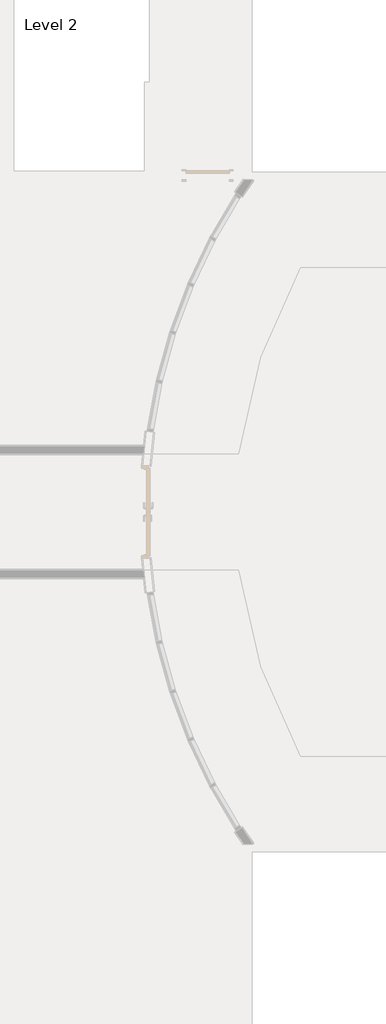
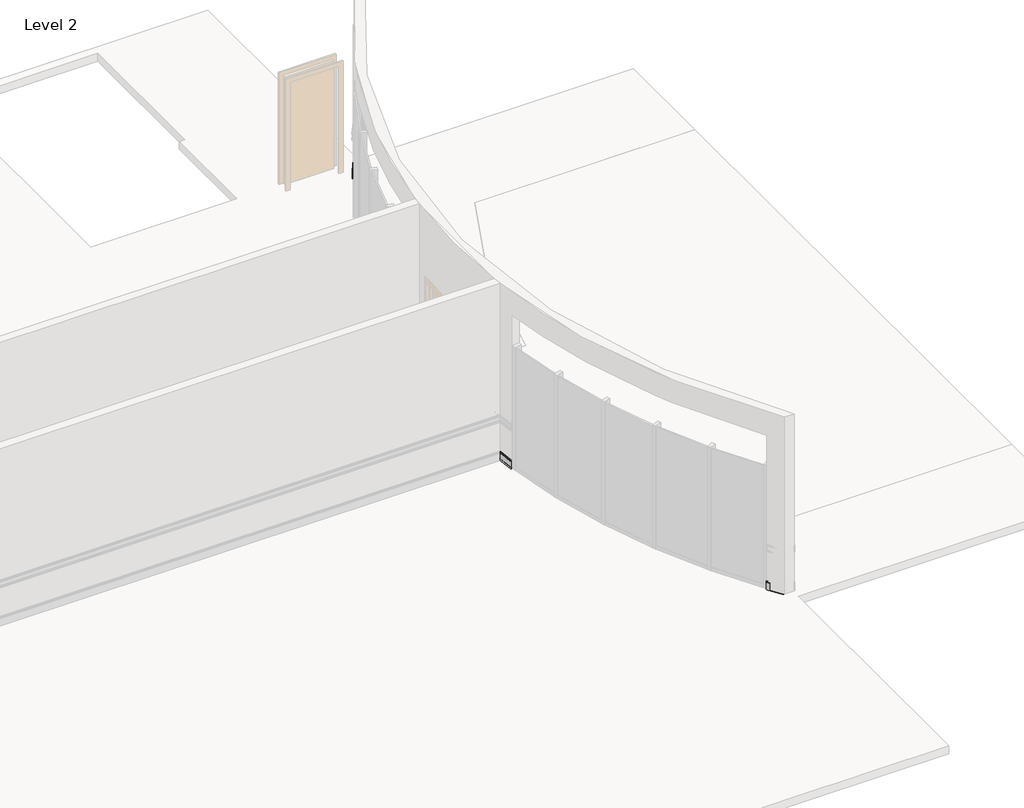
# One storey, part 9 of 14: 1 proxy.
"""IFC4 building model written with IfcOpenShell, lengths in millimetres."""

from ifc_helpers import new_model, si_unit, point, frame, origin, place, context, project, spatial, polyline, circle_curve, ellipse_curve, trimmed, element, save
from ifc_brep_helpers import plane_surface, cylinder_surface, revolved_surface, advanced_brep

model = new_model("IFC4")

# Units and contexts
model_context = context("Model", 3, world=origin())
ifc_project = project(units=[si_unit("LENGTHUNIT", "METRE", prefix="MILLI")], contexts=[model_context])

# Site, building, storey
site = spatial("IfcSite", under=ifc_project)
building = spatial("IfcBuilding", under=site)
storey = spatial("IfcBuildingStorey", under=building, Name="Level 2", Elevation=3657.6)

# Proxy
placement = place(None, origin())
element("IfcBuildingElementProxy", 1, Name="Wall Sweeps", at=placement, inside=storey, context=model_context, shape_type="AdvancedBrep", body=[
    advanced_brep(
    [(12519.4793918, -9214.933674, 3803.65), (12521.317589, -9213.735394, 3804.1164076), (12521.6623588, -9213.5106462, 3805.438329), (12520.8283152, -9214.0543408, 3817.4244174), (12526.5594309, -9210.3183535, 3827.5015472), (12525.4095949, -9211.0679061, 3836.0425393), (12527.4587137, -9209.732131, 3841.75), (12532.7782615, -9206.2644357, 3841.75), (12532.7782615, -9206.2644357, 3797.3), (12531.4483746, -9207.1313595, 3795.7125), (12531.4483746, -9207.1313595, 3684.5875), (12532.7782615, -9206.2644357, 3683.0), (12532.7782615, -9206.2644357, 3657.6), (12519.4793918, -9214.933674, 3657.6), (12695.6377266, -9477.7071785, 3803.65), (12695.6377266, -9477.7071785, 3657.6), (12708.7089721, -9468.6983956, 3657.6), (12708.7089721, -9468.6983956, 3683.0), (12707.4018476, -9469.5992739, 3684.5875), (12707.4018476, -9469.5992739, 3795.7125), (12708.7089721, -9468.6983956, 3797.3), (12708.7089721, -9468.6983956, 3841.75), (12703.4804739, -9472.3019087, 3841.75), (12701.466428, -9473.6900016, 3836.0425393), (12702.5965832, -9472.9110916, 3827.5015472), (12696.9635617, -9476.7934048, 3817.4244174), (12697.7833297, -9476.2284156, 3805.438329), (12697.444461, -9476.461966, 3804.1164076)],
    [
        (0, 1),
        (1, 2, circle_curve(frame((12521.1793394, -9213.8255158, 3804.8928122), z_axis=(0.5460937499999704, -0.8377240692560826, 0.0), x_axis=(-0.8377240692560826, -0.5460937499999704, 0.0)), 0.79375)),
        (2, 3, circle_curve(frame((12527.4587137, -9209.732131, 3812.047453), z_axis=(-0.5460937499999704, 0.8377240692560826, 0.0), x_axis=(-0.8377240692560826, -0.5460937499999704, 0.0)), 9.5684601)),
        (3, 4),
        (4, 5, circle_curve(frame((12522.1391659, -9213.1998263, 3831.034375), z_axis=(0.5460937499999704, -0.8377240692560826, 0.0), x_axis=(-0.8377240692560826, -0.5460937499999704, 0.0)), 6.35)),
        (5, 6),
        (6, 7),
        (7, 8),
        (8, 9),
        (9, 10),
        (10, 11),
        (11, 12),
        (12, 13),
        (13, 0),
        (14, 15),
        (15, 16),
        (16, 17),
        (17, 18),
        (18, 19),
        (19, 20),
        (20, 21),
        (21, 22),
        (22, 23),
        (23, 24, circle_curve(frame((12698.2519757, -9475.9054218, 3831.034375), z_axis=(-0.5674823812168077, 0.8233855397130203, 0.0), x_axis=(-0.8233855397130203, -0.5674823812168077, 0.0)), 6.35)),
        (24, 25),
        (25, 26, circle_curve(frame((12703.4804739, -9472.3019087, 3812.047453), z_axis=(0.5674823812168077, -0.8233855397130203, 0.0), x_axis=(-0.8233855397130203, -0.5674823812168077, 0.0)), 9.5684601)),
        (26, 27, circle_curve(frame((12697.3085778, -9476.5556175, 3804.8928122), z_axis=(-0.5674823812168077, 0.8233855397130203, 0.0), x_axis=(-0.8233855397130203, -0.5674823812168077, 0.0)), 0.79375)),
        (27, 14),
        (27, 1, circle_curve(frame((22811.474575, -2505.8101681, 3804.1164076), z_axis=(0.0, 0.0, -1.0), x_axis=(-0.837724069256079, -0.5460937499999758, 0.0)), 12283.468225)),
        (0, 14, circle_curve(frame((22811.474575, -2505.8101681, 3803.65), z_axis=(0.0, 0.0, 1.0), x_axis=(-0.837724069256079, -0.5460937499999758, 0.0)), 12285.6625001)),
        (26, 2, circle_curve(frame((22811.474575, -2505.8101681, 3805.438329), z_axis=(0.0, 0.0, -1.0), x_axis=(-0.837724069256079, -0.5460937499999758, 0.0)), 12283.0566696)),
        (25, 3, circle_curve(frame((22811.474575, -2505.8101681, 3817.4244174), z_axis=(0.0, 0.0, -1.0), x_axis=(-0.837724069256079, -0.5460937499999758, 0.0)), 12284.0522762)),
        (24, 4, circle_curve(frame((22811.474575, -2505.8101681, 3827.5015472), z_axis=(0.0, 0.0, -1.0), x_axis=(-0.837724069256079, -0.5460937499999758, 0.0)), 12277.2109834)),
        (23, 5, circle_curve(frame((22811.474575, -2505.8101681, 3836.0425393), z_axis=(0.0, 0.0, -1.0), x_axis=(-0.837724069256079, -0.5460937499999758, 0.0)), 12278.5835546)),
        (22, 6, circle_curve(frame((22811.474575, -2505.8101681, 3841.75), z_axis=(0.0, 0.0, -1.0), x_axis=(-0.837724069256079, -0.5460937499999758, 0.0)), 12276.1375)),
        (21, 7, circle_curve(frame((22811.474575, -2505.8101681, 3841.75), z_axis=(0.0, 0.0, -1.0), x_axis=(-0.837724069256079, -0.5460937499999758, 0.0)), 12269.7875)),
        (20, 8, circle_curve(frame((22811.474575, -2505.8101681, 3797.3), z_axis=(0.0, 0.0, -1.0), x_axis=(-0.837724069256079, -0.5460937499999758, 0.0)), 12269.7875)),
        (19, 9, circle_curve(frame((22811.474575, -2505.8101681, 3795.7125), z_axis=(0.0, 0.0, -1.0), x_axis=(-0.837724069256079, -0.5460937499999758, 0.0)), 12271.375)),
        (18, 10, circle_curve(frame((22811.474575, -2505.8101681, 3684.5875), z_axis=(0.0, 0.0, -1.0), x_axis=(-0.837724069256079, -0.5460937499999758, 0.0)), 12271.375)),
        (17, 11, circle_curve(frame((22811.474575, -2505.8101681, 3683.0), z_axis=(0.0, 0.0, -1.0), x_axis=(-0.837724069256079, -0.5460937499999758, 0.0)), 12269.7875)),
        (16, 12, circle_curve(frame((22811.474575, -2505.8101681, 3657.6), z_axis=(0.0, 0.0, -1.0), x_axis=(-0.837724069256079, -0.5460937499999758, 0.0)), 12269.7875)),
        (15, 13, circle_curve(frame((22811.474575, -2505.8101681, 3657.6), z_axis=(0.0, 0.0, -1.0), x_axis=(-0.837724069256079, -0.5460937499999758, 0.0)), 12285.6625001)),
    ],
    [
        plane_surface(frame((22811.474575, -2505.8101681, 3657.6), z_axis=(-0.5460937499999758, 0.837724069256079, 0.0), x_axis=(-0.837724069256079, -0.5460937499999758, 0.0))),
        plane_surface(frame((22811.474575, -2505.8101681, 3657.6), z_axis=(0.5674823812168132, -0.8233855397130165, 0.0), x_axis=(-0.8233855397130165, -0.5674823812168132, 0.0))),
        revolved_surface(polyline([(12519.4793918, -9214.933674, 3803.65), (12521.317589, -9213.735394, 3804.1164076)]), (22811.474575, -2505.8101681, 3657.6), (0.0, 0.0, 1.0)),
        revolved_surface(trimmed(ellipse_curve(frame((12521.1793394, -9213.8255158, 3804.8928122), z_axis=(0.5460937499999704, -0.8377240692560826, 0.0), x_axis=(-0.8377240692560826, -0.5460937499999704, 0.0)), 0.79375, 0.79375), [point((12521.317589, -9213.735394, 3804.1164076))], [point((12521.6623588, -9213.5106462, 3805.438329))], True, "CARTESIAN"), (22811.474575, -2505.8101681, 3657.6), (0.0, 0.0, 1.0)),
        revolved_surface(trimmed(ellipse_curve(frame((12527.4587137, -9209.732131, 3812.047453), z_axis=(-0.5460937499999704, 0.8377240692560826, 0.0), x_axis=(-0.8377240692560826, -0.5460937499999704, 0.0)), 9.5684601, 9.5684601), [point((12521.6623588, -9213.5106462, 3805.438329))], [point((12520.8283152, -9214.0543408, 3817.4244174))], True, "CARTESIAN"), (22811.474575, -2505.8101681, 3657.6), (0.0, 0.0, 1.0)),
        revolved_surface(polyline([(12520.8283152, -9214.0543408, 3817.4244174), (12526.5594309, -9210.3183535, 3827.5015472)]), (22811.474575, -2505.8101681, 3657.6), (0.0, 0.0, 1.0)),
        revolved_surface(trimmed(ellipse_curve(frame((12522.1391659, -9213.1998263, 3831.034375), z_axis=(0.5460937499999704, -0.8377240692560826, 0.0), x_axis=(-0.8377240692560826, -0.5460937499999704, 0.0)), 6.35, 6.35), [point((12526.5594309, -9210.3183535, 3827.5015472))], [point((12525.4095949, -9211.0679061, 3836.0425393))], True, "CARTESIAN"), (22811.474575, -2505.8101681, 3657.6), (0.0, 0.0, 1.0)),
        revolved_surface(polyline([(12525.4095949, -9211.0679061, 3836.0425393), (12527.4587137, -9209.732131, 3841.75)]), (22811.474575, -2505.8101681, 3657.6), (0.0, 0.0, 1.0)),
        plane_surface(frame((22811.474575, -2505.8101681, 3841.75), z_axis=(0.0, 0.0, 1.0), x_axis=(-0.837724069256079, -0.5460937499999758, 0.0))),
        revolved_surface(polyline([(12532.778261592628, -9206.26443567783, 3841.75), (12532.778261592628, -9206.26443567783, 3797.3)]), (22811.474575, -2505.8101681, 3657.6), (0.0, 0.0, 1.0)),
        revolved_surface(polyline([(12532.7782615, -9206.2644357, 3797.3), (12531.4483746, -9207.1313595, 3795.7125)]), (22811.474575, -2505.8101681, 3657.6), (0.0, 0.0, 1.0)),
        revolved_surface(polyline([(12531.448374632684, -9207.131359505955, 3795.7125), (12531.448374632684, -9207.131359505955, 3684.5875)]), (22811.474575, -2505.8101681, 3657.6), (0.0, 0.0, 1.0)),
        revolved_surface(polyline([(12531.4483746, -9207.1313595, 3684.5875), (12532.7782615, -9206.2644357, 3683.0)]), (22811.474575, -2505.8101681, 3657.6), (0.0, 0.0, 1.0)),
        revolved_surface(polyline([(12532.778261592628, -9206.26443567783, 3683.0), (12532.778261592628, -9206.26443567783, 3657.6)]), (22811.474575, -2505.8101681, 3657.6), (0.0, 0.0, 1.0)),
        plane_surface(frame((22811.474575, -2505.8101681, 3657.6), z_axis=(0.0, 0.0, -1.0), x_axis=(-0.837724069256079, -0.5460937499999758, 0.0))),
        cylinder_surface(frame((22811.474575, -2505.8101681, 3657.6), z_axis=(0.0, 0.0, 1.0), x_axis=(-0.837724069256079, -0.5460937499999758, 0.0)), 12285.6625001),
    ],
    [
        (0, [[1, 2, 3, 4, 5, 6, 7, 8, 9, 10, 11, 12, 13, 14]]),
        (1, [[15, 16, 17, 18, 19, 20, 21, 22, 23, 24, 25, 26, 27, 28]]),
        (2, [[29, -1, 30, -28]]),
        (3, [[31, -2, -29, -27]]),
        (4, [[32, -3, -31, -26]]),
        (5, [[33, -4, -32, -25]]),
        (6, [[34, -5, -33, -24]]),
        (7, [[35, -6, -34, -23]]),
        (8, [[36, -7, -35, -22]]),
        (9, [[37, -8, -36, -21]]),
        (10, [[38, -9, -37, -20]]),
        (11, [[39, -10, -38, -19]]),
        (12, [[40, -11, -39, -18]]),
        (13, [[41, -12, -40, -17]]),
        (14, [[42, -13, -41, -16]]),
        (15, [[-30, -14, -42, -15]]),
    ],
),
    advanced_brep(
    [(10563.8838005, -3472.2589713, 3803.65), (10566.0712759, -3472.0863591, 3804.1164076), (10566.4815559, -3472.0539842, 3805.438329), (10565.4890346, -3472.1323034, 3817.4244174), (10572.3091271, -3471.5941347, 3827.5015472), (10570.9408093, -3471.7021077, 3836.0425393), (10573.3792839, -3471.5096894, 3841.75), (10579.709606, -3471.0101681, 3841.75), (10579.709606, -3471.0101681, 3797.3), (10578.1270255, -3471.1350484, 3795.7125), (10578.1270255, -3471.1350484, 3684.5875), (10579.709606, -3471.0101681, 3683.0), (10579.709606, -3471.0101681, 3657.6), (10563.8838005, -3472.2589713, 3657.6), (10642.948726, -4198.2881531, 3803.65), (10642.948726, -4198.2881531, 3657.6), (10658.6723672, -4196.1012065, 3657.6), (10658.6723672, -4196.1012065, 3683.0), (10657.1000031, -4196.3199011, 3684.5875), (10657.1000031, -4196.3199011, 3795.7125), (10658.6723672, -4196.1012065, 3797.3), (10658.6723672, -4196.1012065, 3841.75), (10652.3829108, -4196.9759851, 3841.75), (10649.9601779, -4197.3129546, 3836.0425393), (10651.3196624, -4197.1238686, 3827.5015472), (10644.5435974, -4198.066328, 3817.4244174), (10645.5297114, -4197.9291728, 3805.438329), (10645.12208, -4197.9858689, 3804.1164076)],
    [
        (0, 1),
        (1, 2, circle_curve(frame((10565.9067574, -3472.0993412, 3804.8928122), z_axis=(0.0786647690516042, -0.9969011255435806, 0.0), x_axis=(-0.9969011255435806, -0.0786647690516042, 0.0)), 0.79375)),
        (2, 3, circle_curve(frame((10573.3792839, -3471.5096894, 3812.047453), z_axis=(-0.0786647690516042, 0.9969011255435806, 0.0), x_axis=(-0.9969011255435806, -0.0786647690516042, 0.0)), 9.5684601)),
        (3, 4),
        (4, 5, circle_curve(frame((10567.0489617, -3472.0092106, 3831.034375), z_axis=(0.0786647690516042, -0.9969011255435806, 0.0), x_axis=(-0.9969011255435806, -0.0786647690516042, 0.0)), 6.35)),
        (5, 6),
        (6, 7),
        (7, 8),
        (8, 9),
        (9, 10),
        (10, 11),
        (11, 12),
        (12, 13),
        (13, 0),
        (14, 15),
        (15, 16),
        (16, 17),
        (17, 18),
        (18, 19),
        (19, 20),
        (20, 21),
        (21, 22),
        (22, 23),
        (23, 24, circle_curve(frame((10646.0934543, -4197.8507638, 3831.034375), z_axis=(-0.13776041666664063, 0.990465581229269, 0.0), x_axis=(-0.990465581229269, -0.13776041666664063, 0.0)), 6.35)),
        (24, 25),
        (25, 26, circle_curve(frame((10652.3829108, -4196.9759851, 3812.047453), z_axis=(0.13776041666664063, -0.990465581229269, 0.0), x_axis=(-0.990465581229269, -0.13776041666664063, 0.0)), 9.5684601)),
        (26, 27, circle_curve(frame((10644.9586236, -4198.0086034, 3804.8928122), z_axis=(-0.13776041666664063, 0.990465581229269, 0.0), x_axis=(-0.990465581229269, -0.13776041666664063, 0.0)), 0.79375)),
        (27, 14),
        (27, 1, circle_curve(frame((22811.474575, -2505.8101681, 3804.1164076), z_axis=(0.0, 0.0, -1.0), x_axis=(-0.99690112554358, -0.07866476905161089, 0.0)), 12283.468225)),
        (0, 14, circle_curve(frame((22811.474575, -2505.8101681, 3803.65), z_axis=(0.0, 0.0, 1.0), x_axis=(-0.99690112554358, -0.07866476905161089, 0.0)), 12285.6625001)),
        (26, 2, circle_curve(frame((22811.474575, -2505.8101681, 3805.438329), z_axis=(0.0, 0.0, -1.0), x_axis=(-0.99690112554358, -0.07866476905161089, 0.0)), 12283.0566696)),
        (25, 3, circle_curve(frame((22811.474575, -2505.8101681, 3817.4244174), z_axis=(0.0, 0.0, -1.0), x_axis=(-0.99690112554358, -0.07866476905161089, 0.0)), 12284.0522762)),
        (24, 4, circle_curve(frame((22811.474575, -2505.8101681, 3827.5015472), z_axis=(0.0, 0.0, -1.0), x_axis=(-0.99690112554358, -0.07866476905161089, 0.0)), 12277.2109834)),
        (23, 5, circle_curve(frame((22811.474575, -2505.8101681, 3836.0425393), z_axis=(0.0, 0.0, -1.0), x_axis=(-0.99690112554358, -0.07866476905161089, 0.0)), 12278.5835546)),
        (22, 6, circle_curve(frame((22811.474575, -2505.8101681, 3841.75), z_axis=(0.0, 0.0, -1.0), x_axis=(-0.99690112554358, -0.07866476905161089, 0.0)), 12276.1375)),
        (21, 7, circle_curve(frame((22811.474575, -2505.8101681, 3841.75), z_axis=(0.0, 0.0, -1.0), x_axis=(-0.99690112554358, -0.07866476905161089, 0.0)), 12269.7875)),
        (20, 8, circle_curve(frame((22811.474575, -2505.8101681, 3797.3), z_axis=(0.0, 0.0, -1.0), x_axis=(-0.99690112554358, -0.07866476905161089, 0.0)), 12269.7875)),
        (19, 9, circle_curve(frame((22811.474575, -2505.8101681, 3795.7125), z_axis=(0.0, 0.0, -1.0), x_axis=(-0.99690112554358, -0.07866476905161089, 0.0)), 12271.375)),
        (18, 10, circle_curve(frame((22811.474575, -2505.8101681, 3684.5875), z_axis=(0.0, 0.0, -1.0), x_axis=(-0.99690112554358, -0.07866476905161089, 0.0)), 12271.375)),
        (17, 11, circle_curve(frame((22811.474575, -2505.8101681, 3683.0), z_axis=(0.0, 0.0, -1.0), x_axis=(-0.99690112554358, -0.07866476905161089, 0.0)), 12269.7875)),
        (16, 12, circle_curve(frame((22811.474575, -2505.8101681, 3657.6), z_axis=(0.0, 0.0, -1.0), x_axis=(-0.99690112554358, -0.07866476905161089, 0.0)), 12269.7875)),
        (15, 13, circle_curve(frame((22811.474575, -2505.8101681, 3657.6), z_axis=(0.0, 0.0, -1.0), x_axis=(-0.99690112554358, -0.07866476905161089, 0.0)), 12285.6625001)),
    ],
    [
        plane_surface(frame((22811.474575, -2505.8101681, 3657.6), z_axis=(-0.07866476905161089, 0.99690112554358, 0.0), x_axis=(-0.99690112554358, -0.07866476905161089, 0.0))),
        plane_surface(frame((22811.474575, -2505.8101681, 3657.6), z_axis=(0.13776041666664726, -0.9904655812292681, 0.0), x_axis=(-0.9904655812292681, -0.13776041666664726, 0.0))),
        revolved_surface(polyline([(10563.8838005, -3472.2589713, 3803.65), (10566.0712759, -3472.0863591, 3804.1164076)]), (22811.474575, -2505.8101681, 3657.6), (0.0, 0.0, 1.0)),
        revolved_surface(trimmed(ellipse_curve(frame((10565.9067574, -3472.0993412, 3804.8928122), z_axis=(0.0786647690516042, -0.9969011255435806, 0.0), x_axis=(-0.9969011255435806, -0.0786647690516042, 0.0)), 0.79375, 0.79375), [point((10566.0712759, -3472.0863591, 3804.1164076))], [point((10566.4815559, -3472.0539842, 3805.438329))], True, "CARTESIAN"), (22811.474575, -2505.8101681, 3657.6), (0.0, 0.0, 1.0)),
        revolved_surface(trimmed(ellipse_curve(frame((10573.3792839, -3471.5096894, 3812.047453), z_axis=(-0.0786647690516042, 0.9969011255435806, 0.0), x_axis=(-0.9969011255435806, -0.0786647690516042, 0.0)), 9.5684601, 9.5684601), [point((10566.4815559, -3472.0539842, 3805.438329))], [point((10565.4890346, -3472.1323034, 3817.4244174))], True, "CARTESIAN"), (22811.474575, -2505.8101681, 3657.6), (0.0, 0.0, 1.0)),
        revolved_surface(polyline([(10565.4890346, -3472.1323034, 3817.4244174), (10572.3091271, -3471.5941347, 3827.5015472)]), (22811.474575, -2505.8101681, 3657.6), (0.0, 0.0, 1.0)),
        revolved_surface(trimmed(ellipse_curve(frame((10567.0489617, -3472.0092106, 3831.034375), z_axis=(0.0786647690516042, -0.9969011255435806, 0.0), x_axis=(-0.9969011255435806, -0.0786647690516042, 0.0)), 6.35, 6.35), [point((10572.3091271, -3471.5941347, 3827.5015472))], [point((10570.9408093, -3471.7021077, 3836.0425393))], True, "CARTESIAN"), (22811.474575, -2505.8101681, 3657.6), (0.0, 0.0, 1.0)),
        revolved_surface(polyline([(10570.9408093, -3471.7021077, 3836.0425393), (10573.3792839, -3471.5096894, 3841.75)]), (22811.474575, -2505.8101681, 3657.6), (0.0, 0.0, 1.0)),
        plane_surface(frame((22811.474575, -2505.8101681, 3841.75), z_axis=(0.0, 0.0, 1.0), x_axis=(-0.99690112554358, -0.07866476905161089, 0.0))),
        revolved_surface(polyline([(10579.709606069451, -3471.0101680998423, 3841.75), (10579.709606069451, -3471.0101680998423, 3797.3)]), (22811.474575, -2505.8101681, 3657.6), (0.0, 0.0, 1.0)),
        revolved_surface(polyline([(10579.709606, -3471.0101681, 3797.3), (10578.1270255, -3471.1350484, 3795.7125)]), (22811.474575, -2505.8101681, 3657.6), (0.0, 0.0, 1.0)),
        revolved_surface(polyline([(10578.12702553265, -3471.1350484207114, 3795.7125), (10578.12702553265, -3471.1350484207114, 3684.5875)]), (22811.474575, -2505.8101681, 3657.6), (0.0, 0.0, 1.0)),
        revolved_surface(polyline([(10578.1270255, -3471.1350484, 3684.5875), (10579.709606, -3471.0101681, 3683.0)]), (22811.474575, -2505.8101681, 3657.6), (0.0, 0.0, 1.0)),
        revolved_surface(polyline([(10579.709606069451, -3471.0101680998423, 3683.0), (10579.709606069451, -3471.0101680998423, 3657.6)]), (22811.474575, -2505.8101681, 3657.6), (0.0, 0.0, 1.0)),
        plane_surface(frame((22811.474575, -2505.8101681, 3657.6), z_axis=(0.0, 0.0, -1.0), x_axis=(-0.99690112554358, -0.07866476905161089, 0.0))),
        cylinder_surface(frame((22811.474575, -2505.8101681, 3657.6), z_axis=(0.0, 0.0, 1.0), x_axis=(-0.99690112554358, -0.07866476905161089, 0.0)), 12285.6625001),
    ],
    [
        (0, [[1, 2, 3, 4, 5, 6, 7, 8, 9, 10, 11, 12, 13, 14]]),
        (1, [[15, 16, 17, 18, 19, 20, 21, 22, 23, 24, 25, 26, 27, 28]]),
        (2, [[29, -1, 30, -28]]),
        (3, [[31, -2, -29, -27]]),
        (4, [[32, -3, -31, -26]]),
        (5, [[33, -4, -32, -25]]),
        (6, [[34, -5, -33, -24]]),
        (7, [[35, -6, -34, -23]]),
        (8, [[36, -7, -35, -22]]),
        (9, [[37, -8, -36, -21]]),
        (10, [[38, -9, -37, -20]]),
        (11, [[39, -10, -38, -19]]),
        (12, [[40, -11, -39, -18]]),
        (13, [[41, -12, -40, -17]]),
        (14, [[42, -13, -41, -16]]),
        (15, [[-30, -14, -42, -15]]),
    ],
),
    advanced_brep(
    [(10642.948726, -813.332183, 3803.65), (10645.12208, -813.6344673, 3804.1164076), (10645.5297114, -813.6911633, 3805.438329), (10644.5435974, -813.5540082, 3817.4244174), (10651.3196624, -814.4964675, 3827.5015472), (10649.9601779, -814.3073815, 3836.0425393), (10652.3829108, -814.644351, 3841.75), (10658.6723672, -815.5191297, 3841.75), (10658.6723672, -815.5191297, 3797.3), (10657.1000031, -815.300435, 3795.7125), (10657.1000031, -815.300435, 3684.5875), (10658.6723672, -815.5191297, 3683.0), (10658.6723672, -815.5191297, 3657.6), (10642.948726, -813.332183, 3657.6), (10563.8838005, -1539.3613649, 3803.65), (10563.8838005, -1539.3613649, 3657.6), (10579.709606, -1540.6101681, 3657.6), (10579.709606, -1540.6101681, 3683.0), (10578.1270255, -1540.4852878, 3684.5875), (10578.1270255, -1540.4852878, 3795.7125), (10579.709606, -1540.6101681, 3797.3), (10579.709606, -1540.6101681, 3841.75), (10573.3792839, -1540.1106468, 3841.75), (10570.9408093, -1539.9182285, 3836.0425393), (10572.3091271, -1540.0262015, 3827.5015472), (10565.4890346, -1539.4880327, 3817.4244174), (10566.4815559, -1539.5663519, 3805.438329), (10566.0712759, -1539.533977, 3804.1164076)],
    [
        (0, 1),
        (1, 2, circle_curve(frame((10644.9586236, -813.6117327, 3804.8928122), z_axis=(-0.1377604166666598, -0.9904655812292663, 0.0), x_axis=(-0.9904655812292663, 0.1377604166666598, 0.0)), 0.79375)),
        (2, 3, circle_curve(frame((10652.3829108, -814.644351, 3812.047453), z_axis=(0.1377604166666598, 0.9904655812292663, 0.0), x_axis=(-0.9904655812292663, 0.1377604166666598, 0.0)), 9.5684601)),
        (3, 4),
        (4, 5, circle_curve(frame((10646.0934543, -813.7695724, 3831.034375), z_axis=(-0.1377604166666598, -0.9904655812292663, 0.0), x_axis=(-0.9904655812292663, 0.1377604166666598, 0.0)), 6.35)),
        (5, 6),
        (6, 7),
        (7, 8),
        (8, 9),
        (9, 10),
        (10, 11),
        (11, 12),
        (12, 13),
        (13, 0),
        (14, 15),
        (15, 16),
        (16, 17),
        (17, 18),
        (18, 19),
        (19, 20),
        (20, 21),
        (21, 22),
        (22, 23),
        (23, 24, circle_curve(frame((10567.0489617, -1539.6111255, 3831.034375), z_axis=(0.07866476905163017, 0.9969011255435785, 0.0), x_axis=(-0.9969011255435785, 0.07866476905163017, 0.0)), 6.35)),
        (24, 25),
        (25, 26, circle_curve(frame((10573.3792839, -1540.1106468, 3812.047453), z_axis=(-0.07866476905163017, -0.9969011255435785, 0.0), x_axis=(-0.9969011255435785, 0.07866476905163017, 0.0)), 9.5684601)),
        (26, 27, circle_curve(frame((10565.9067574, -1539.520995, 3804.8928122), z_axis=(0.07866476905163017, 0.9969011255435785, 0.0), x_axis=(-0.9969011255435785, 0.07866476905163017, 0.0)), 0.79375)),
        (27, 14),
        (27, 1, circle_curve(frame((22811.474575, -2505.8101681, 3804.1164076), z_axis=(0.0, 0.0, -1.0), x_axis=(-0.9904655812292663, 0.1377604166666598, 0.0)), 12283.468225)),
        (0, 14, circle_curve(frame((22811.474575, -2505.8101681, 3803.65), z_axis=(0.0, 0.0, 1.0), x_axis=(-0.9904655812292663, 0.1377604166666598, 0.0)), 12285.6625001)),
        (26, 2, circle_curve(frame((22811.474575, -2505.8101681, 3805.438329), z_axis=(0.0, 0.0, -1.0), x_axis=(-0.9904655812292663, 0.1377604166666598, 0.0)), 12283.0566696)),
        (25, 3, circle_curve(frame((22811.474575, -2505.8101681, 3817.4244174), z_axis=(0.0, 0.0, -1.0), x_axis=(-0.9904655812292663, 0.1377604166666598, 0.0)), 12284.0522762)),
        (24, 4, circle_curve(frame((22811.474575, -2505.8101681, 3827.5015472), z_axis=(0.0, 0.0, -1.0), x_axis=(-0.9904655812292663, 0.1377604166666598, 0.0)), 12277.2109834)),
        (23, 5, circle_curve(frame((22811.474575, -2505.8101681, 3836.0425393), z_axis=(0.0, 0.0, -1.0), x_axis=(-0.9904655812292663, 0.1377604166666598, 0.0)), 12278.5835546)),
        (22, 6, circle_curve(frame((22811.474575, -2505.8101681, 3841.75), z_axis=(0.0, 0.0, -1.0), x_axis=(-0.9904655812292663, 0.1377604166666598, 0.0)), 12276.1375)),
        (21, 7, circle_curve(frame((22811.474575, -2505.8101681, 3841.75), z_axis=(0.0, 0.0, -1.0), x_axis=(-0.9904655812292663, 0.1377604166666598, 0.0)), 12269.7875)),
        (20, 8, circle_curve(frame((22811.474575, -2505.8101681, 3797.3), z_axis=(0.0, 0.0, -1.0), x_axis=(-0.9904655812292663, 0.1377604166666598, 0.0)), 12269.7875)),
        (19, 9, circle_curve(frame((22811.474575, -2505.8101681, 3795.7125), z_axis=(0.0, 0.0, -1.0), x_axis=(-0.9904655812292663, 0.1377604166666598, 0.0)), 12271.375)),
        (18, 10, circle_curve(frame((22811.474575, -2505.8101681, 3684.5875), z_axis=(0.0, 0.0, -1.0), x_axis=(-0.9904655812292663, 0.1377604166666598, 0.0)), 12271.375)),
        (17, 11, circle_curve(frame((22811.474575, -2505.8101681, 3683.0), z_axis=(0.0, 0.0, -1.0), x_axis=(-0.9904655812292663, 0.1377604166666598, 0.0)), 12269.7875)),
        (16, 12, circle_curve(frame((22811.474575, -2505.8101681, 3657.6), z_axis=(0.0, 0.0, -1.0), x_axis=(-0.9904655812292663, 0.1377604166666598, 0.0)), 12269.7875)),
        (15, 13, circle_curve(frame((22811.474575, -2505.8101681, 3657.6), z_axis=(0.0, 0.0, -1.0), x_axis=(-0.9904655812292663, 0.1377604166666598, 0.0)), 12285.6625001)),
    ],
    [
        plane_surface(frame((22811.474575, -2505.8101681, 3657.6), z_axis=(0.1377604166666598, 0.9904655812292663, 0.0), x_axis=(-0.9904655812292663, 0.1377604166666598, 0.0))),
        plane_surface(frame((22811.474575, -2505.8101681, 3657.6), z_axis=(-0.07866476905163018, -0.9969011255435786, 0.0), x_axis=(-0.9969011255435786, 0.07866476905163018, 0.0))),
        revolved_surface(polyline([(10642.948726, -813.332183, 3803.65), (10645.12208, -813.6344673, 3804.1164076)]), (22811.474575, -2505.8101681, 3657.6), (0.0, 0.0, 1.0)),
        revolved_surface(trimmed(ellipse_curve(frame((10644.9586236, -813.6117327, 3804.8928122), z_axis=(-0.1377604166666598, -0.9904655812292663, 0.0), x_axis=(-0.9904655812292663, 0.1377604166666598, 0.0)), 0.79375, 0.79375), [point((10645.12208, -813.6344673, 3804.1164076))], [point((10645.5297114, -813.6911633, 3805.438329))], True, "CARTESIAN"), (22811.474575, -2505.8101681, 3657.6), (0.0, 0.0, 1.0)),
        revolved_surface(trimmed(ellipse_curve(frame((10652.3829108, -814.644351, 3812.047453), z_axis=(0.1377604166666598, 0.9904655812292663, 0.0), x_axis=(-0.9904655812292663, 0.1377604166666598, 0.0)), 9.5684601, 9.5684601), [point((10645.5297114, -813.6911633, 3805.438329))], [point((10644.5435974, -813.5540082, 3817.4244174))], True, "CARTESIAN"), (22811.474575, -2505.8101681, 3657.6), (0.0, 0.0, 1.0)),
        revolved_surface(polyline([(10644.5435974, -813.5540082, 3817.4244174), (10651.3196624, -814.4964675, 3827.5015472)]), (22811.474575, -2505.8101681, 3657.6), (0.0, 0.0, 1.0)),
        revolved_surface(trimmed(ellipse_curve(frame((10646.0934543, -813.7695724, 3831.034375), z_axis=(-0.1377604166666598, -0.9904655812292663, 0.0), x_axis=(-0.9904655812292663, 0.1377604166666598, 0.0)), 6.35, 6.35), [point((10651.3196624, -814.4964675, 3827.5015472))], [point((10649.9601779, -814.3073815, 3836.0425393))], True, "CARTESIAN"), (22811.474575, -2505.8101681, 3657.6), (0.0, 0.0, 1.0)),
        revolved_surface(polyline([(10649.9601779, -814.3073815, 3836.0425393), (10652.3829108, -814.644351, 3841.75)]), (22811.474575, -2505.8101681, 3657.6), (0.0, 0.0, 1.0)),
        plane_surface(frame((22811.474575, -2505.8101681, 3841.75), z_axis=(0.0, 0.0, 1.0), x_axis=(-0.9904655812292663, 0.1377604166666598, 0.0))),
        revolved_surface(polyline([(10658.672367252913, -815.5191296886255, 3841.75), (10658.672367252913, -815.5191296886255, 3797.3)]), (22811.474575, -2505.8101681, 3657.6), (0.0, 0.0, 1.0)),
        revolved_surface(polyline([(10658.6723672, -815.5191297, 3797.3), (10657.1000031, -815.300435, 3795.7125)]), (22811.474575, -2505.8101681, 3657.6), (0.0, 0.0, 1.0)),
        revolved_surface(polyline([(10657.100003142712, -815.3004350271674, 3795.7125), (10657.100003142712, -815.3004350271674, 3684.5875)]), (22811.474575, -2505.8101681, 3657.6), (0.0, 0.0, 1.0)),
        revolved_surface(polyline([(10657.1000031, -815.300435, 3684.5875), (10658.6723672, -815.5191297, 3683.0)]), (22811.474575, -2505.8101681, 3657.6), (0.0, 0.0, 1.0)),
        revolved_surface(polyline([(10658.672367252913, -815.5191296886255, 3683.0), (10658.672367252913, -815.5191296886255, 3657.6)]), (22811.474575, -2505.8101681, 3657.6), (0.0, 0.0, 1.0)),
        plane_surface(frame((22811.474575, -2505.8101681, 3657.6), z_axis=(0.0, 0.0, -1.0), x_axis=(-0.9904655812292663, 0.1377604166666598, 0.0))),
        cylinder_surface(frame((22811.474575, -2505.8101681, 3657.6), z_axis=(0.0, 0.0, 1.0), x_axis=(-0.9904655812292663, 0.1377604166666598, 0.0)), 12285.6625001),
    ],
    [
        (0, [[1, 2, 3, 4, 5, 6, 7, 8, 9, 10, 11, 12, 13, 14]]),
        (1, [[15, 16, 17, 18, 19, 20, 21, 22, 23, 24, 25, 26, 27, 28]]),
        (2, [[29, -1, 30, -28]]),
        (3, [[31, -2, -29, -27]]),
        (4, [[32, -3, -31, -26]]),
        (5, [[33, -4, -32, -25]]),
        (6, [[34, -5, -33, -24]]),
        (7, [[35, -6, -34, -23]]),
        (8, [[36, -7, -35, -22]]),
        (9, [[37, -8, -36, -21]]),
        (10, [[38, -9, -37, -20]]),
        (11, [[39, -10, -38, -19]]),
        (12, [[40, -11, -39, -18]]),
        (13, [[41, -12, -40, -17]]),
        (14, [[42, -13, -41, -16]]),
        (15, [[-30, -14, -42, -15]]),
    ],
),
    advanced_brep(
    [(12695.5595894, 4465.9734683, 3803.65), (12697.3663378, 4464.7282761, 3804.1164076), (12697.7052092, 4464.4947294, 3805.438329), (12696.8854348, 4465.0597094, 3817.4244174), (12702.5184999, 4461.1774594, 3827.5015472), (12701.3883359, 4461.9563567, 3836.0425393), (12703.4023974, 4460.5682864, 3841.75), (12708.6309359, 4456.9648319, 3841.75), (12708.6309359, 4456.9648319, 3797.3), (12707.3238013, 4457.8656956, 3795.7125), (12707.3238013, 4457.8656956, 3684.5875), (12708.6309359, 4456.9648319, 3683.0), (12708.6309359, 4456.9648319, 3657.6), (12695.5595894, 4465.9734683, 3657.6), (12519.4793918, 4203.3133379, 3803.65), (12519.4793918, 4203.3133379, 3657.6), (12532.7782615, 4194.6440995, 3657.6), (12532.7782615, 4194.6440995, 3683.0), (12531.4483746, 4195.5110233, 3684.5875), (12531.4483746, 4195.5110233, 3795.7125), (12532.7782615, 4194.6440995, 3797.3), (12532.7782615, 4194.6440995, 3841.75), (12527.4587137, 4198.1117948, 3841.75), (12525.4095949, 4199.4475699, 3836.0425393), (12526.5594309, 4198.6980174, 3827.5015472), (12520.8283152, 4202.4340046, 3817.4244174), (12521.6623588, 4201.8903101, 3805.438329), (12521.317589, 4202.1150579, 3804.1164076)],
    [
        (0, 1),
        (1, 2, circle_curve(frame((12697.2304535, 4464.8219261, 3804.8928122), z_axis=(-0.5674731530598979, -0.8233918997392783, 0.0), x_axis=(-0.8233918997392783, 0.5674731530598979, 0.0)), 0.79375)),
        (2, 3, circle_curve(frame((12703.4023974, 4460.5682864, 3812.047453), z_axis=(0.5674731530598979, 0.8233918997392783, 0.0), x_axis=(-0.8233918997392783, 0.5674731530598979, 0.0)), 9.5684601)),
        (3, 4),
        (4, 5, circle_curve(frame((12698.1738588, 4464.171741, 3831.034375), z_axis=(-0.5674731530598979, -0.8233918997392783, 0.0), x_axis=(-0.8233918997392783, 0.5674731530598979, 0.0)), 6.35)),
        (5, 6),
        (6, 7),
        (7, 8),
        (8, 9),
        (9, 10),
        (10, 11),
        (11, 12),
        (12, 13),
        (13, 0),
        (14, 15),
        (15, 16),
        (16, 17),
        (17, 18),
        (18, 19),
        (19, 20),
        (20, 21),
        (21, 22),
        (22, 23),
        (23, 24, circle_curve(frame((12522.1391659, 4201.5794901, 3831.034375), z_axis=(0.5460937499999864, 0.837724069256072, 0.0), x_axis=(-0.837724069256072, 0.5460937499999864, 0.0)), 6.35)),
        (24, 25),
        (25, 26, circle_curve(frame((12527.4587137, 4198.1117948, 3812.047453), z_axis=(-0.5460937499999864, -0.837724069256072, 0.0), x_axis=(-0.837724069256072, 0.5460937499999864, 0.0)), 9.5684601)),
        (26, 27, circle_curve(frame((12521.1793394, 4202.2051797, 3804.8928122), z_axis=(0.5460937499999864, 0.837724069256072, 0.0), x_axis=(-0.837724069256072, 0.5460937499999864, 0.0)), 0.79375)),
        (27, 14),
        (27, 1, circle_curve(frame((22811.474575, -2505.8101681, 3804.1164076), z_axis=(0.0, 0.0, -1.0), x_axis=(-0.8233918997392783, 0.5674731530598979, 0.0)), 12283.468225)),
        (0, 14, circle_curve(frame((22811.474575, -2505.8101681, 3803.65), z_axis=(0.0, 0.0, 1.0), x_axis=(-0.8233918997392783, 0.5674731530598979, 0.0)), 12285.6625001)),
        (26, 2, circle_curve(frame((22811.474575, -2505.8101681, 3805.438329), z_axis=(0.0, 0.0, -1.0), x_axis=(-0.8233918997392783, 0.5674731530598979, 0.0)), 12283.0566696)),
        (25, 3, circle_curve(frame((22811.474575, -2505.8101681, 3817.4244174), z_axis=(0.0, 0.0, -1.0), x_axis=(-0.8233918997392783, 0.5674731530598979, 0.0)), 12284.0522762)),
        (24, 4, circle_curve(frame((22811.474575, -2505.8101681, 3827.5015472), z_axis=(0.0, 0.0, -1.0), x_axis=(-0.8233918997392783, 0.5674731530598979, 0.0)), 12277.2109834)),
        (23, 5, circle_curve(frame((22811.474575, -2505.8101681, 3836.0425393), z_axis=(0.0, 0.0, -1.0), x_axis=(-0.8233918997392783, 0.5674731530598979, 0.0)), 12278.5835546)),
        (22, 6, circle_curve(frame((22811.474575, -2505.8101681, 3841.75), z_axis=(0.0, 0.0, -1.0), x_axis=(-0.8233918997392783, 0.5674731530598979, 0.0)), 12276.1375)),
        (21, 7, circle_curve(frame((22811.474575, -2505.8101681, 3841.75), z_axis=(0.0, 0.0, -1.0), x_axis=(-0.8233918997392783, 0.5674731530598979, 0.0)), 12269.7875)),
        (20, 8, circle_curve(frame((22811.474575, -2505.8101681, 3797.3), z_axis=(0.0, 0.0, -1.0), x_axis=(-0.8233918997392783, 0.5674731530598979, 0.0)), 12269.7875)),
        (19, 9, circle_curve(frame((22811.474575, -2505.8101681, 3795.7125), z_axis=(0.0, 0.0, -1.0), x_axis=(-0.8233918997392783, 0.5674731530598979, 0.0)), 12271.375)),
        (18, 10, circle_curve(frame((22811.474575, -2505.8101681, 3684.5875), z_axis=(0.0, 0.0, -1.0), x_axis=(-0.8233918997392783, 0.5674731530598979, 0.0)), 12271.375)),
        (17, 11, circle_curve(frame((22811.474575, -2505.8101681, 3683.0), z_axis=(0.0, 0.0, -1.0), x_axis=(-0.8233918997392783, 0.5674731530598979, 0.0)), 12269.7875)),
        (16, 12, circle_curve(frame((22811.474575, -2505.8101681, 3657.6), z_axis=(0.0, 0.0, -1.0), x_axis=(-0.8233918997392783, 0.5674731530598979, 0.0)), 12269.7875)),
        (15, 13, circle_curve(frame((22811.474575, -2505.8101681, 3657.6), z_axis=(0.0, 0.0, -1.0), x_axis=(-0.8233918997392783, 0.5674731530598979, 0.0)), 12285.6625001)),
    ],
    [
        plane_surface(frame((22811.474575, -2505.8101681, 3657.6), z_axis=(0.5674731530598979, 0.8233918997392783, 0.0), x_axis=(-0.8233918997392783, 0.5674731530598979, 0.0))),
        plane_surface(frame((22811.474575, -2505.8101681, 3657.6), z_axis=(-0.5460937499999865, -0.8377240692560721, 0.0), x_axis=(-0.8377240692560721, 0.5460937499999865, 0.0))),
        revolved_surface(polyline([(12695.5595894, 4465.9734683, 3803.65), (12697.3663378, 4464.7282761, 3804.1164076)]), (22811.474575, -2505.8101681, 3657.6), (0.0, 0.0, 1.0)),
        revolved_surface(trimmed(ellipse_curve(frame((12697.2304535, 4464.8219261, 3804.8928122), z_axis=(-0.5674731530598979, -0.8233918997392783, 0.0), x_axis=(-0.8233918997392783, 0.5674731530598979, 0.0)), 0.79375, 0.79375), [point((12697.3663378, 4464.7282761, 3804.1164076))], [point((12697.7052092, 4464.4947294, 3805.438329))], True, "CARTESIAN"), (22811.474575, -2505.8101681, 3657.6), (0.0, 0.0, 1.0)),
        revolved_surface(trimmed(ellipse_curve(frame((12703.4023974, 4460.5682864, 3812.047453), z_axis=(0.5674731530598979, 0.8233918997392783, 0.0), x_axis=(-0.8233918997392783, 0.5674731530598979, 0.0)), 9.5684601, 9.5684601), [point((12697.7052092, 4464.4947294, 3805.438329))], [point((12696.8854348, 4465.0597094, 3817.4244174))], True, "CARTESIAN"), (22811.474575, -2505.8101681, 3657.6), (0.0, 0.0, 1.0)),
        revolved_surface(polyline([(12696.8854348, 4465.0597094, 3817.4244174), (12702.5184999, 4461.1774594, 3827.5015472)]), (22811.474575, -2505.8101681, 3657.6), (0.0, 0.0, 1.0)),
        revolved_surface(trimmed(ellipse_curve(frame((12698.1738588, 4464.171741, 3831.034375), z_axis=(-0.5674731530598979, -0.8233918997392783, 0.0), x_axis=(-0.8233918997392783, 0.5674731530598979, 0.0)), 6.35, 6.35), [point((12702.5184999, 4461.1774594, 3827.5015472))], [point((12701.3883359, 4461.9563567, 3836.0425393))], True, "CARTESIAN"), (22811.474575, -2505.8101681, 3657.6), (0.0, 0.0, 1.0)),
        revolved_surface(polyline([(12701.3883359, 4461.9563567, 3836.0425393), (12703.4023974, 4460.5682864, 3841.75)]), (22811.474575, -2505.8101681, 3657.6), (0.0, 0.0, 1.0)),
        plane_surface(frame((22811.474575, -2505.8101681, 3841.75), z_axis=(0.0, 0.0, 1.0), x_axis=(-0.8233918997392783, 0.5674731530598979, 0.0))),
        revolved_surface(polyline([(12708.63093597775, 4456.964831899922, 3841.75), (12708.63093597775, 4456.964831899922, 3797.3)]), (22811.474575, -2505.8101681, 3657.6), (0.0, 0.0, 1.0)),
        revolved_surface(polyline([(12708.6309359, 4456.9648319, 3797.3), (12707.3238013, 4457.8656956, 3795.7125)]), (22811.474575, -2505.8101681, 3657.6), (0.0, 0.0, 1.0)),
        revolved_surface(polyline([(12707.323801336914, 4457.865695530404, 3795.7125), (12707.323801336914, 4457.865695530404, 3684.5875)]), (22811.474575, -2505.8101681, 3657.6), (0.0, 0.0, 1.0)),
        revolved_surface(polyline([(12707.3238013, 4457.8656956, 3684.5875), (12708.6309359, 4456.9648319, 3683.0)]), (22811.474575, -2505.8101681, 3657.6), (0.0, 0.0, 1.0)),
        revolved_surface(polyline([(12708.63093597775, 4456.964831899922, 3683.0), (12708.63093597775, 4456.964831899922, 3657.6)]), (22811.474575, -2505.8101681, 3657.6), (0.0, 0.0, 1.0)),
        plane_surface(frame((22811.474575, -2505.8101681, 3657.6), z_axis=(0.0, 0.0, -1.0), x_axis=(-0.8233918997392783, 0.5674731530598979, 0.0))),
        cylinder_surface(frame((22811.474575, -2505.8101681, 3657.6), z_axis=(0.0, 0.0, 1.0), x_axis=(-0.8233918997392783, 0.5674731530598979, 0.0)), 12285.6625001),
    ],
    [
        (0, [[1, 2, 3, 4, 5, 6, 7, 8, 9, 10, 11, 12, 13, 14]]),
        (1, [[15, 16, 17, 18, 19, 20, 21, 22, 23, 24, 25, 26, 27, 28]]),
        (2, [[29, -1, 30, -28]]),
        (3, [[31, -2, -29, -27]]),
        (4, [[32, -3, -31, -26]]),
        (5, [[33, -4, -32, -25]]),
        (6, [[34, -5, -33, -24]]),
        (7, [[35, -6, -34, -23]]),
        (8, [[36, -7, -35, -22]]),
        (9, [[37, -8, -36, -21]]),
        (10, [[38, -9, -37, -20]]),
        (11, [[39, -10, -38, -19]]),
        (12, [[40, -11, -39, -18]]),
        (13, [[41, -12, -40, -17]]),
        (14, [[42, -13, -41, -16]]),
        (15, [[-30, -14, -42, -15]]),
    ],
),
])

save(model, "model.ifc")
